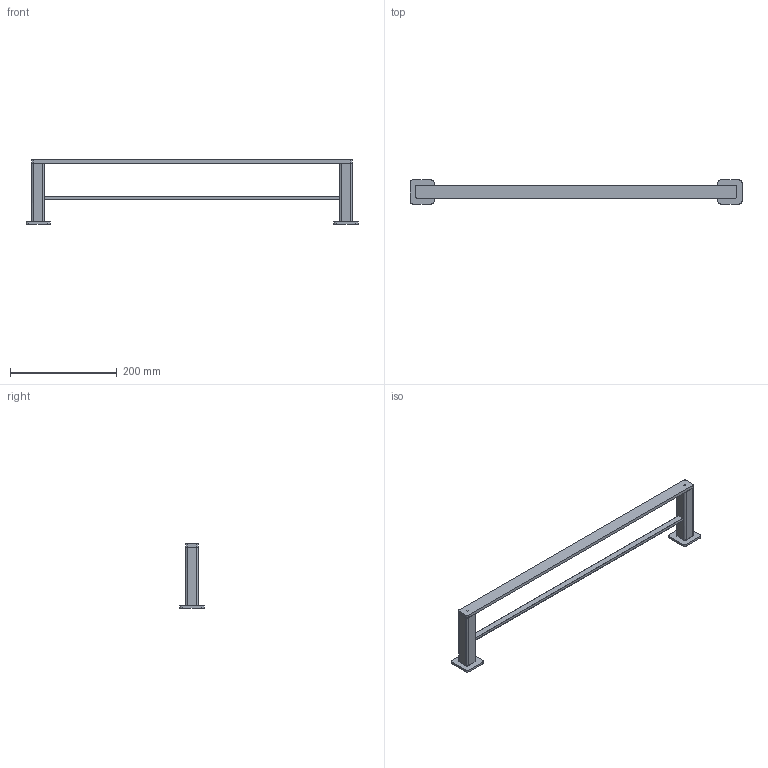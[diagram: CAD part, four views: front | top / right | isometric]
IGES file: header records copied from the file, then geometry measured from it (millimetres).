
Global section: file name: 2deeca91-8d66-4913-aece-98edf55df8ef.zip; native system: unknown; preprocessor: unknown; author: unknown; organization: unknown; date: 20200107.145246; units: millimetre
Bounding box: 620.7 x 45 x 120 mm (x, y, z)
Volume: 141512.1 mm3; surface area: 122875.8 mm2
Topology: 6 solids, 6 shells, 80 faces, 202 edges, 136 vertices
Faces by surface type: bspline 80
